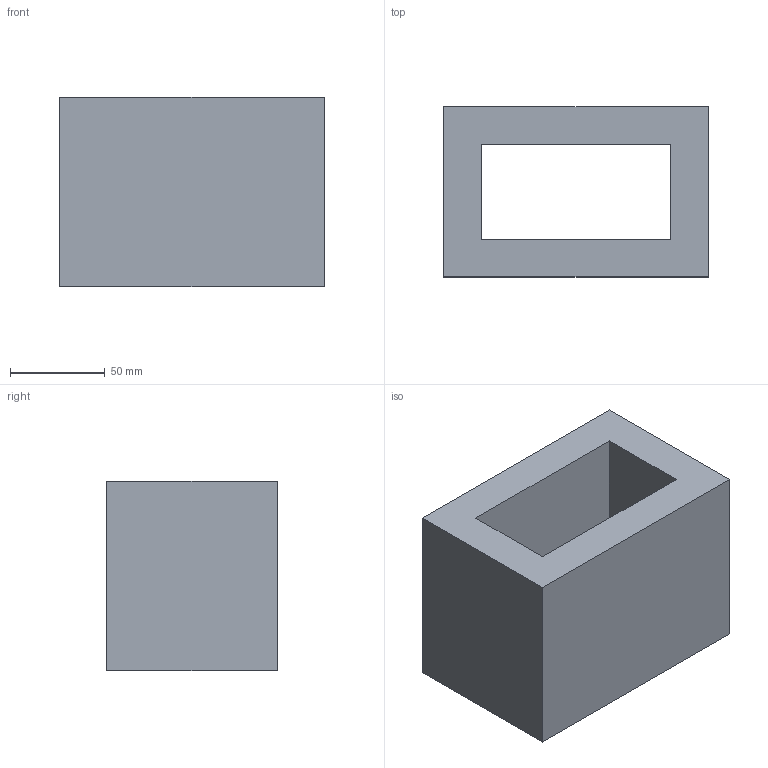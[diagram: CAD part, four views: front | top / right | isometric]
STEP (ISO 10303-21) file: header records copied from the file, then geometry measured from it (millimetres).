
FILE_DESCRIPTION (( 'STEP AP203' ), '1' );
FILE_NAME ('Bati50_Défaut_sldprt.STEP', '2018-09-18T07:22:56', ( '' ), ( '' ), 'SwSTEP 2.0', 'SolidWorks 2015', '' );
FILE_SCHEMA (( 'CONFIG_CONTROL_DESIGN' ));
Length unit declared in the file: millimetre
Products named in the file (1): Bati50_Défaut_sldprt
Bounding box: 140 x 90 x 100 mm (x, y, z)
Volume: 760000 mm3; surface area: 91200 mm2
Topology: 1 solids, 1 shells, 10 faces, 24 edges, 16 vertices
Faces by surface type: plane 10
Entity records: 369 total; most frequent: CARTESIAN_POINT 51, ORIENTED_EDGE 48, DIRECTION 46, EDGE_CURVE 24, LINE 24, VECTOR 24, VERTEX_POINT 16, EDGE_LOOP 12
